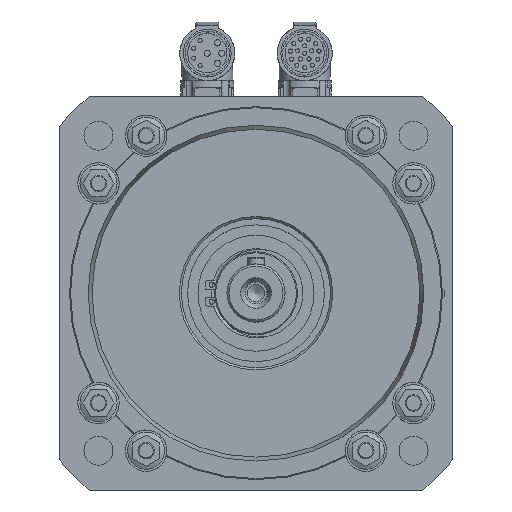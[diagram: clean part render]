
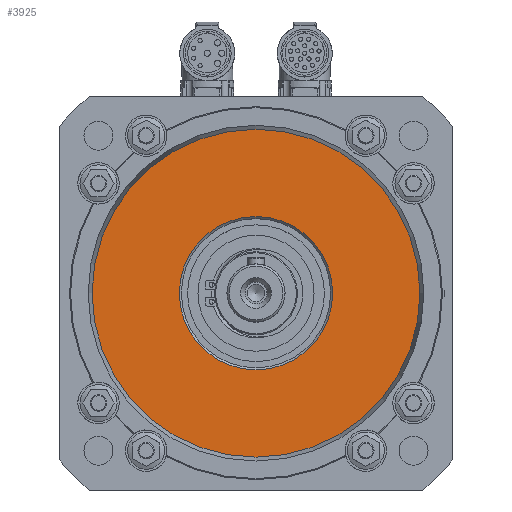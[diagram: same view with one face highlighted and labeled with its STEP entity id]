
A CAD part, top view. The second image highlights one B-rep face of the part: STEP entity #3925.
In plain terms, the highlighted planar face has unit normal (0, 0, 1) as drawn and (0, -1, 0) by its records, which use the part's own axes.
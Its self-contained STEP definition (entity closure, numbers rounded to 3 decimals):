
#3925 = ADVANCED_FACE( '', ( #8141, #8142 ), #8143, .F. );
#8141 = FACE_BOUND( '', #15241, .T. );
#8142 = FACE_OUTER_BOUND( '', #15242, .T. );
#8143 = PLANE( '', #15243 );
#15241 = EDGE_LOOP( '', ( #27514 ) );
#15242 = EDGE_LOOP( '', ( #27515 ) );
#15243 = AXIS2_PLACEMENT_3D( '', #27516, #27517, #27518 );
#27514 = ORIENTED_EDGE( '', *, *, #41728, .T. );
#27515 = ORIENTED_EDGE( '', *, *, #41876, .T. );
#27516 = CARTESIAN_POINT( '', ( 0., -34.896, 79.124 ) );
#27517 = DIRECTION( '', ( 0., 1., 0. ) );
#27518 = DIRECTION( '', ( 0., 0., 1. ) );
#41728 = EDGE_CURVE( '', #53319, #53319, #53320, .T. );
#41876 = EDGE_CURVE( '', #53505, #53505, #53506, .T. );
#53319 = VERTEX_POINT( '', #70631 );
#53320 = CIRCLE( '', #70632, 37. );
#53505 = VERTEX_POINT( '', #71058 );
#53506 = CIRCLE( '', #71059, 79.124 );
#70631 = CARTESIAN_POINT( '', ( 0., -34.896, 37. ) );
#70632 = AXIS2_PLACEMENT_3D( '', #80901, #80902, #80903 );
#71058 = CARTESIAN_POINT( '', ( 0., -34.896, -79.124 ) );
#71059 = AXIS2_PLACEMENT_3D( '', #81041, #81042, #81043 );
#80901 = CARTESIAN_POINT( '', ( 0., -34.896, 0. ) );
#80902 = DIRECTION( '', ( 0., 1., 0. ) );
#80903 = DIRECTION( '', ( 0., 0., 1. ) );
#81041 = CARTESIAN_POINT( '', ( 0., -34.896, 0. ) );
#81042 = DIRECTION( '', ( 0., -1., 0. ) );
#81043 = DIRECTION( '', ( 0., 0., -1. ) );
